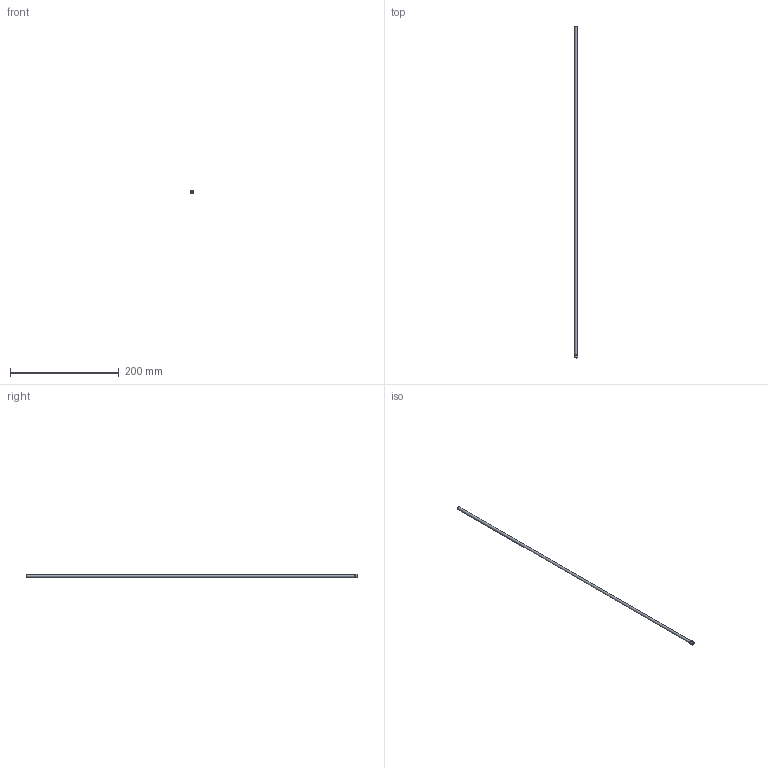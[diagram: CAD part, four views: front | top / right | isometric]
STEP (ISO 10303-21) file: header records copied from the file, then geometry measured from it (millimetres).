
FILE_DESCRIPTION(/* description */ (''),/* implementation_level */ '2;1');
FILE_NAME(/* name */ 'C:/Users/drich/Desktop/HF187T-24 v2.step',/* time_stamp */ '2019-12-30T13:32:05-06:00',/* author */ (''),/* organization */ (''),/* preprocessor_version */ 'ST-DEVELOPER v18',/* originating_system */ 'Autodesk Translation Framework v8.12.0.6',/* authorisation */ '');
FILE_SCHEMA (('AUTOMOTIVE_DESIGN { 1 0 10303 214 3 1 1 }'));
Length unit declared in the file: inch
Products named in the file (1): HF187T-24
Bounding box: 6.4 x 609.6 x 6.4 mm (x, y, z)
Volume: 2271.5 mm3; surface area: 17279.1 mm2
Topology: 1 solids, 1 shells, 12 faces, 30 edges, 22 vertices
Faces by surface type: plane 4, cylinder 4, torus 3, cone 1
Full cylindrical faces by diameter (mm): 4.242 x1, 4.75 x1, 6.243 x1, 6.401 x1
Entity records: 426 total; most frequent: DIRECTION 81, CARTESIAN_POINT 65, ORIENTED_EDGE 60, AXIS2_PLACEMENT_3D 38, EDGE_CURVE 30, CIRCLE 25, VERTEX_POINT 22, EDGE_LOOP 16
